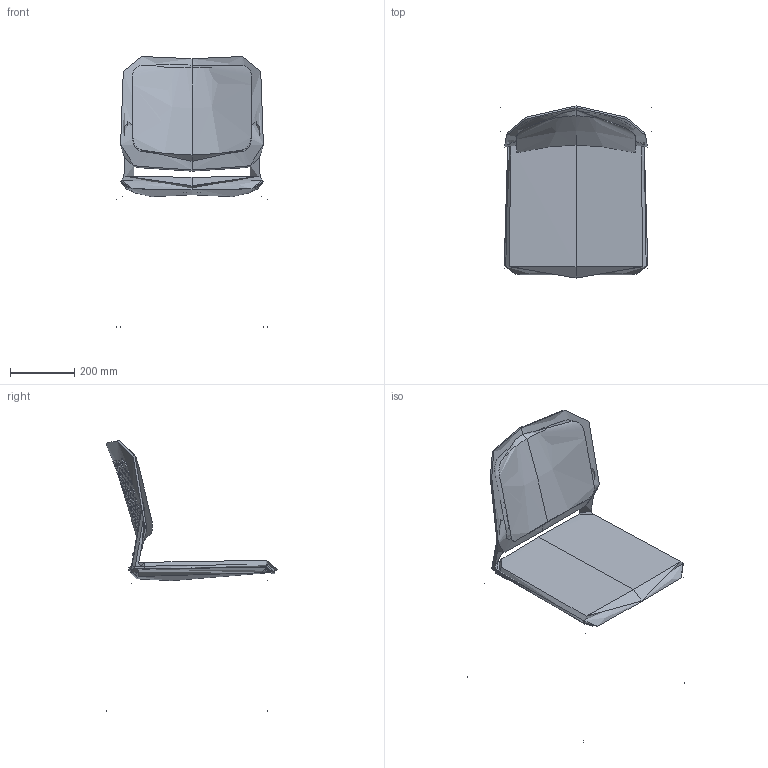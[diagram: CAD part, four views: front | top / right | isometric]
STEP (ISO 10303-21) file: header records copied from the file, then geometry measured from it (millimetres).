
FILE_DESCRIPTION(/* description */ (''),/* implementation_level */ '2;1');
FILE_NAME(/* name */ 'Time 172',/* time_stamp */ '2019-11-22T23:01:17+01:00',/* author */ (''),/* organization */ (''),/* preprocessor_version */ 'ST-DEVELOPER v16.5',/* originating_system */ '',/* authorisation */ '');
FILE_SCHEMA (('AUTOMOTIVE_DESIGN'));
Length unit declared in the file: millimetre
Products named in the file (1): Document
Bounding box: 468 x 533.25 x 840.75 mm (x, y, z)
Volume: 4511806.5 mm3; surface area: 1819108.9 mm2
Topology: 1 solids, 11 shells, 1094 faces, 3231 edges, 2119 vertices
Faces by surface type: bspline 614, plane 480
Entity records: 62806 total; most frequent: CARTESIAN_POINT 42085, ORIENTED_EDGE 6414, EDGE_CURVE 3228, B_SPLINE_CURVE_WITH_KNOTS 3151, VERTEX_POINT 2117, EDGE_LOOP 1542, ADVANCED_FACE 1094, FACE_OUTER_BOUND 1094
